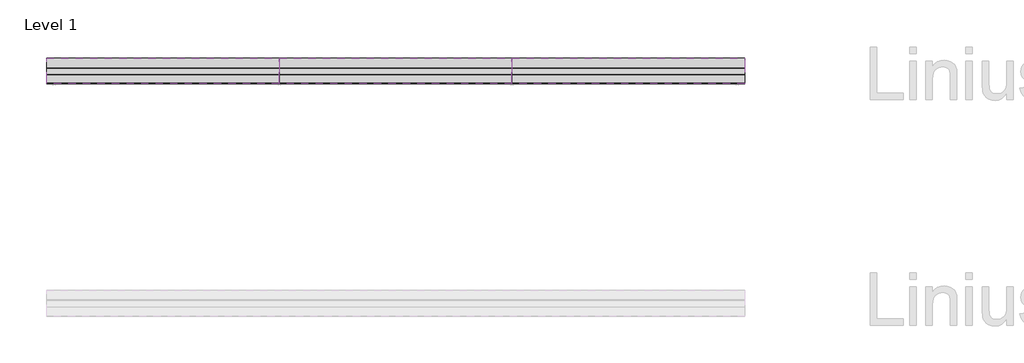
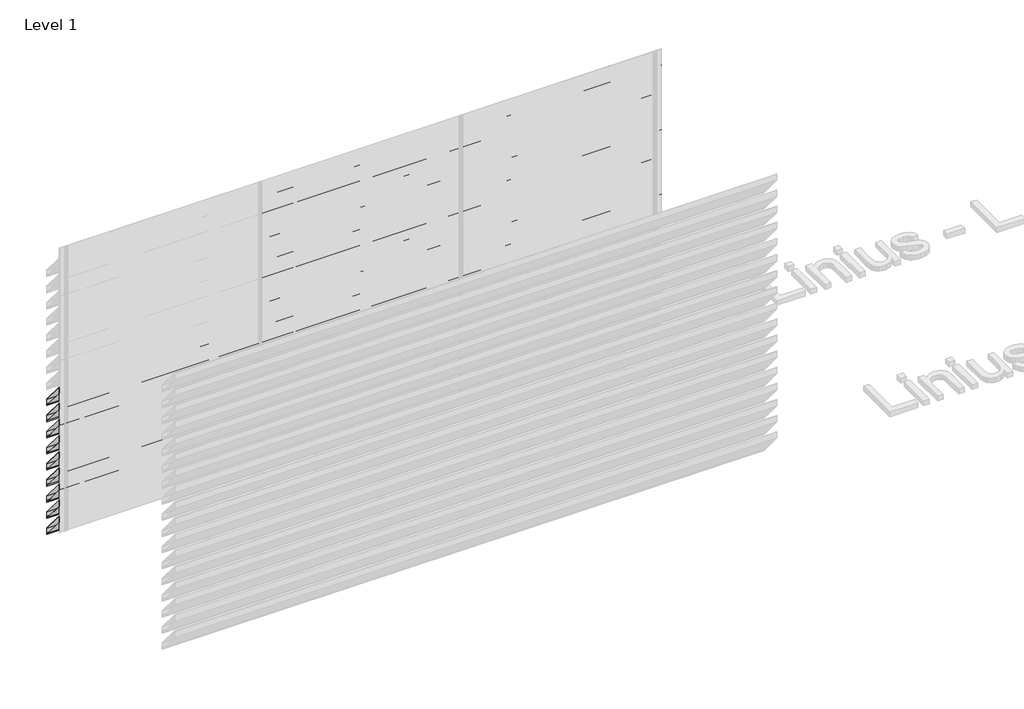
# One storey, part 104 of 121: 43 proxies.
"""IFC4 building model written with IfcOpenShell, lengths in millimetres."""

import ifcopenshell
import ifcopenshell.guid

model = None  # the IFC model being written
_history = None  # IfcOwnerHistory: only IFC2X3 demands one
_inside = {}  # id of a spatial element -> (the spatial element, [elements in it])
_under = {}  # id of a project, library or spatial element -> (it, [spatial elements below it])
_declared = {}  # id of a project -> (the project, [libraries it declares])
_typed = {}  # id of a type object -> (the type object, [elements of that type])
_made_of = {}  # id of a material, layer set ... -> (it, [elements and type objects made of it])


def new_model(schema):
    """Start an empty IFC model of exactly this schema.

    Asked for "IFC4X3", IfcOpenShell would pick the latest addendum, in which some entities
    have other attributes; the version numbers below select the first issue.
    IFC2X3 requires an IfcOwnerHistory on every rooted entity: one is made here for all.
    """
    global model, _history
    if schema == "IFC4X3":
        model = ifcopenshell.file(schema_version=(4, 3, 0, 0))
    else:
        model = ifcopenshell.file(schema=schema)
    _inside.clear()
    _under.clear()
    _declared.clear()
    _typed.clear()
    _made_of.clear()
    _history = None
    if model.schema == "IFC2X3":
        org = make("IfcOrganization", Name="unknown")
        user = make(
            "IfcPersonAndOrganization",
            ThePerson=make("IfcPerson", FamilyName="unknown"),
            TheOrganization=org,
        )
        app = make(
            "IfcApplication",
            ApplicationDeveloper=org,
            Version="unknown",
            ApplicationFullName="unknown",
            ApplicationIdentifier="unknown",
        )
        _history = make(
            "IfcOwnerHistory",
            OwningUser=user,
            OwningApplication=app,
            ChangeAction="ADDED",
            CreationDate=0,
        )
    return model


def make(cls, **values):
    """One entity of the class cls with the attributes given. An attribute that is None is left unset."""
    return model.create_entity(
        cls, **{name: value for name, value in values.items() if value is not None}
    )


def rooted(cls, **values):
    """An entity with a GlobalId (a new one), such as an element, a storey or a relation."""
    return make(cls, GlobalId=ifcopenshell.guid.new(), OwnerHistory=_history, **values)


def si_unit(unit_type, name, prefix=None):
    """IfcSIUnit, for example si_unit("LENGTHUNIT", "METRE", prefix="MILLI")."""
    return make("IfcSIUnit", UnitType=unit_type, Prefix=prefix, Name=name)


def assignment(units):
    """IfcUnitAssignment: the units of a project."""
    return None if units is None else make("IfcUnitAssignment", Units=units)


def point(xyz):
    """IfcCartesianPoint."""
    return None if xyz is None else make("IfcCartesianPoint", Coordinates=xyz)


def direction(xyz):
    """IfcDirection."""
    return None if xyz is None else make("IfcDirection", DirectionRatios=xyz)


def frame(location, z_axis=None, x_axis=None):
    """IfcAxis2Placement3D, a coordinate frame: its origin and axes. An axis left out is left unset."""
    return make(
        "IfcAxis2Placement3D",
        Location=point(location),
        Axis=direction(z_axis),
        RefDirection=direction(x_axis),
    )


def origin():
    """The frame at (0, 0, 0) with its axes left unset."""
    return frame((0.0, 0.0, 0.0))


def place(relative_to, where):
    """IfcLocalPlacement: puts the frame where relative to a parent placement (None: the world)."""
    return make(
        "IfcLocalPlacement", PlacementRelTo=relative_to, RelativePlacement=where
    )


def context(
    kind, dimensions, precision=None, world=None, true_north=None, identifier=None
):
    """IfcGeometricRepresentationContext, for example the 3D "Model" context."""
    return make(
        "IfcGeometricRepresentationContext",
        ContextIdentifier=identifier,
        ContextType=kind,
        CoordinateSpaceDimension=dimensions,
        Precision=precision,
        WorldCoordinateSystem=world,
        TrueNorth=true_north,
    )


def project(units=None, contexts=None):
    """IfcProject with its units and contexts."""
    return rooted(
        "IfcProject",
        Name="project",
        RepresentationContexts=contexts,
        UnitsInContext=assignment(units),
    )


def spatial(cls, under=None, at=None, **own):
    """A site, building, storey or space (cls), placed at a placement, below another one or the project."""
    s = rooted(cls, ObjectPlacement=at, **own)
    if under is not None:
        _under.setdefault(under.id(), (under, []))[1].append(s)
    return s


def polyline(points):
    """IfcPolyline through the points."""
    return make("IfcPolyline", Points=[point(p) for p in points])


def outline(outer, holes=None, kind="AREA"):
    """IfcArbitraryClosedProfileDef: a profile drawn as a closed curve; with holes, ...WithVoids."""
    if holes is None:
        return make("IfcArbitraryClosedProfileDef", ProfileType=kind, OuterCurve=outer)
    return make(
        "IfcArbitraryProfileDefWithVoids",
        ProfileType=kind,
        OuterCurve=outer,
        InnerCurves=holes,
    )


def extrude(swept, where, along, depth):
    """IfcExtrudedAreaSolid: the profile swept, set in the frame where, extruded along a direction by depth."""
    return make(
        "IfcExtrudedAreaSolid",
        SweptArea=swept,
        Position=where,
        ExtrudedDirection=direction(along),
        Depth=depth,
    )


def shape(context_of_items, identifier, shape_type, items):
    """IfcShapeRepresentation: the items that make up one representation, for example the "Body"."""
    return make(
        "IfcShapeRepresentation",
        ContextOfItems=context_of_items,
        RepresentationIdentifier=identifier,
        RepresentationType=shape_type,
        Items=items,
    )


def made_of(thing, what):
    """Note that an element or type object is made of a material, layer set ...; save() writes the relation."""
    if what is not None:
        _made_of.setdefault(what.id(), (what, []))[1].append(thing)
    return thing


def element(
    cls,
    number,
    at=None,
    inside=None,
    cuts=None,
    type_object=None,
    material=None,
    context=None,
    identifier="Body",
    shape_type=None,
    held_by="IfcProductDefinitionShape",
    body=None,
    shapes=None,
    **own,
):
    """One element of the class cls, such as IfcWall. Its Tag is "e" and its number.

    at: its placement. inside: the storey or other place that contains it. cuts: it is an
    opening in that element (IfcRelVoidsElement). A single representation is given by context,
    identifier, shape_type and body (its items); several are given by shapes. held_by: the class
    of the entity that holds the representations. save() writes the other relations.
    """
    e = rooted(cls, Tag="e%d" % number, ObjectPlacement=at, **own)
    if body is not None:
        shapes = [shape(context, identifier, shape_type, body)]
    if shapes is not None:
        e.Representation = make(held_by, Representations=shapes)
    if inside is not None:
        _inside.setdefault(inside.id(), (inside, []))[1].append(e)
    if cuts is not None:
        rooted(
            "IfcRelVoidsElement", RelatingBuildingElement=cuts, RelatedOpeningElement=e
        )
    if type_object is not None:
        _typed.setdefault(type_object.id(), (type_object, []))[1].append(e)
    return made_of(e, material)


def aggregate(whole, parts):
    """IfcRelAggregates: a whole, such as a stair, and the parts it consists of."""
    return rooted("IfcRelAggregates", RelatingObject=whole, RelatedObjects=parts)


def save(model, path):
    """Write the relations noted so far, then the file.

    IfcRelAggregates (storeys below a building ...), IfcRelContainedInSpatialStructure (elements
    in a storey), IfcRelDefinesByType, IfcRelAssociatesMaterial and IfcRelDeclares: one each for
    every whole, place, type object, material and project.
    """
    for whole, parts in _under.values():
        aggregate(whole, parts)
    for where, things in _inside.values():
        rooted(
            "IfcRelContainedInSpatialStructure",
            RelatedElements=things,
            RelatingStructure=where,
        )
    for kind, things in _typed.values():
        rooted("IfcRelDefinesByType", RelatedObjects=things, RelatingType=kind)
    for what, things in _made_of.values():
        rooted("IfcRelAssociatesMaterial", RelatedObjects=things, RelatingMaterial=what)
    for by, libraries in _declared.values():
        rooted("IfcRelDeclares", RelatingContext=by, RelatedDefinitions=libraries)
    model.write(path)


model = new_model("IFC4")

# Units and contexts
model_context = context("Model", 3, world=origin())
ifc_project = project(units=[si_unit("LENGTHUNIT", "METRE", prefix="MILLI")], contexts=[model_context])

# Site, building, storey
site = spatial("IfcSite", under=ifc_project)
building = spatial("IfcBuilding", under=site)
storey = spatial("IfcBuildingStorey", under=building, Name="Level 1", Elevation=0.0)

# Proxies
placement = place(None, origin())
element("IfcBuildingElementProxy", 1, Name="Wall Sweeps", at=placement, inside=storey, context=model_context, shape_type="SweptSolid", body=[
    extrude(outline(polyline([(74205.0540136, 1271.0), (74205.0540136, 1202.0), (74202.5540136, 1203.1657691), (74202.5540136, 1216.7059843), (74185.8041465, 1236.6676986), (74175.1189071, 1236.6676986), (73983.0540136, 1465.5617253), (73983.0540136, 1530.0), (73987.7272091, 1530.0), (74205.0540136, 1271.0)]), holes=[polyline([(73986.8412246, 1528.1), (73984.9540136, 1528.1), (73984.9540136, 1466.2532688), (74176.0048916, 1238.5676986), (74186.6901311, 1238.5676986), (74203.1540136, 1218.9468074), (74203.1540136, 1270.3084566), (73986.8412246, 1528.1)])]), frame((466.6208097, 0.0, 0.0), z_axis=(1.0, 0.0, 0.0), x_axis=(0.0, 1.0, 0.0)), (0.0, 0.0, 1.0), 2000.0),
])
element("IfcBuildingElementProxy", 2, Name="Wall Sweeps", at=placement, inside=storey, context=model_context, shape_type="SweptSolid", body=[
    extrude(outline(polyline([(74205.0540136, 1101.0), (74205.0540136, 1032.0), (74202.5540136, 1033.1657691), (74202.5540136, 1046.7059843), (74185.8041465, 1066.6676986), (74175.1189071, 1066.6676986), (73983.0540136, 1295.5617253), (73983.0540136, 1360.0), (73987.7272091, 1360.0), (74205.0540136, 1101.0)]), holes=[polyline([(73986.8412246, 1358.1), (73984.9540136, 1358.1), (73984.9540136, 1296.2532688), (74176.0048916, 1068.5676986), (74186.6901311, 1068.5676986), (74203.1540136, 1048.9468074), (74203.1540136, 1100.3084566), (73986.8412246, 1358.1)])]), frame((466.6208097, 0.0, 0.0), z_axis=(1.0, 0.0, 0.0), x_axis=(0.0, 1.0, 0.0)), (0.0, 0.0, 1.0), 2000.0),
])
element("IfcBuildingElementProxy", 3, Name="Wall Sweeps", at=placement, inside=storey, context=model_context, shape_type="SweptSolid", body=[
    extrude(outline(polyline([(74205.0540136, 931.0), (74205.0540136, 862.0), (74202.5540136, 863.1657691), (74202.5540136, 876.7059843), (74185.8041465, 896.6676986), (74175.1189071, 896.6676986), (73983.0540136, 1125.5617253), (73983.0540136, 1190.0), (73987.7272091, 1190.0), (74205.0540136, 931.0)]), holes=[polyline([(73986.8412246, 1188.1), (73984.9540136, 1188.1), (73984.9540136, 1126.2532688), (74176.0048916, 898.5676986), (74186.6901311, 898.5676986), (74203.1540136, 878.9468074), (74203.1540136, 930.3084566), (73986.8412246, 1188.1)])]), frame((466.6208097, 0.0, 0.0), z_axis=(1.0, 0.0, 0.0), x_axis=(0.0, 1.0, 0.0)), (0.0, 0.0, 1.0), 2000.0),
])
element("IfcBuildingElementProxy", 4, Name="Wall Sweeps", at=placement, inside=storey, context=model_context, shape_type="SweptSolid", body=[
    extrude(outline(polyline([(74205.0540136, 761.0), (74205.0540136, 692.0), (74202.5540136, 693.1657691), (74202.5540136, 706.7059843), (74185.8041465, 726.6676986), (74175.1189071, 726.6676986), (73983.0540136, 955.5617253), (73983.0540136, 1020.0), (73987.7272091, 1020.0), (74205.0540136, 761.0)]), holes=[polyline([(73986.8412246, 1018.1), (73984.9540136, 1018.1), (73984.9540136, 956.2532688), (74176.0048916, 728.5676986), (74186.6901311, 728.5676986), (74203.1540136, 708.9468074), (74203.1540136, 760.3084566), (73986.8412246, 1018.1)])]), frame((466.6208097, 0.0, 0.0), z_axis=(1.0, 0.0, 0.0), x_axis=(0.0, 1.0, 0.0)), (0.0, 0.0, 1.0), 2000.0),
])
element("IfcBuildingElementProxy", 5, Name="Wall Sweeps", at=placement, inside=storey, context=model_context, shape_type="SweptSolid", body=[
    extrude(outline(polyline([(74205.0540136, 591.0), (74205.0540136, 522.0), (74202.5540136, 523.1657691), (74202.5540136, 536.7059843), (74185.8041465, 556.6676986), (74175.1189071, 556.6676986), (73983.0540136, 785.5617253), (73983.0540136, 850.0), (73987.7272091, 850.0), (74205.0540136, 591.0)]), holes=[polyline([(73986.8412246, 848.1), (73984.9540136, 848.1), (73984.9540136, 786.2532688), (74176.0048916, 558.5676986), (74186.6901311, 558.5676986), (74203.1540136, 538.9468074), (74203.1540136, 590.3084566), (73986.8412246, 848.1)])]), frame((466.6208097, 0.0, 0.0), z_axis=(1.0, 0.0, 0.0), x_axis=(0.0, 1.0, 0.0)), (0.0, 0.0, 1.0), 2000.0),
])
element("IfcBuildingElementProxy", 6, Name="Wall Sweeps", at=placement, inside=storey, context=model_context, shape_type="SweptSolid", body=[
    extrude(outline(polyline([(74205.0540136, 421.0), (74205.0540136, 352.0), (74202.5540136, 353.1657691), (74202.5540136, 366.7059843), (74185.8041465, 386.6676986), (74175.1189071, 386.6676986), (73983.0540136, 615.5617253), (73983.0540136, 680.0), (73987.7272091, 680.0), (74205.0540136, 421.0)]), holes=[polyline([(73986.8412246, 678.1), (73984.9540136, 678.1), (73984.9540136, 616.2532688), (74176.0048916, 388.5676986), (74186.6901311, 388.5676986), (74203.1540136, 368.9468074), (74203.1540136, 420.3084566), (73986.8412246, 678.1)])]), frame((466.6208097, 0.0, 0.0), z_axis=(1.0, 0.0, 0.0), x_axis=(0.0, 1.0, 0.0)), (0.0, 0.0, 1.0), 2000.0),
])
element("IfcBuildingElementProxy", 7, Name="Wall Sweeps", at=placement, inside=storey, context=model_context, shape_type="SweptSolid", body=[
    extrude(outline(polyline([(74205.0540136, 251.0), (74205.0540136, 182.0), (74202.5540136, 183.1657691), (74202.5540136, 196.7059843), (74185.8041465, 216.6676986), (74175.1189071, 216.6676986), (73983.0540136, 445.5617253), (73983.0540136, 510.0), (73987.7272091, 510.0), (74205.0540136, 251.0)]), holes=[polyline([(73986.8412246, 508.1), (73984.9540136, 508.1), (73984.9540136, 446.2532688), (74176.0048916, 218.5676986), (74186.6901311, 218.5676986), (74203.1540136, 198.9468074), (74203.1540136, 250.3084566), (73986.8412246, 508.1)])]), frame((466.6208097, 0.0, 0.0), z_axis=(1.0, 0.0, 0.0), x_axis=(0.0, 1.0, 0.0)), (0.0, 0.0, 1.0), 2000.0),
])
element("IfcBuildingElementProxy", 8, Name="Wall Sweeps", at=placement, inside=storey, context=model_context, shape_type="SweptSolid", body=[
    extrude(outline(polyline([(74205.0540136, 81.0), (74205.0540136, 12.0), (74202.5540136, 13.1657691), (74202.5540136, 26.7059843), (74185.8041465, 46.6676986), (74175.1189071, 46.6676986), (73983.0540136, 275.5617253), (73983.0540136, 340.0), (73987.7272091, 340.0), (74205.0540136, 81.0)]), holes=[polyline([(73986.8412246, 338.1), (73984.9540136, 338.1), (73984.9540136, 276.2532688), (74176.0048916, 48.5676986), (74186.6901311, 48.5676986), (74203.1540136, 28.9468074), (74203.1540136, 80.3084566), (73986.8412246, 338.1)])]), frame((466.6208097, 0.0, 0.0), z_axis=(1.0, 0.0, 0.0), x_axis=(0.0, 1.0, 0.0)), (0.0, 0.0, 1.0), 2000.0),
])
element("IfcBuildingElementProxy", 9, Name="Wall Sweeps", at=placement, inside=storey, context=model_context, shape_type="SweptSolid", body=[
    extrude(outline(polyline([(74205.0540136, -89.0), (74205.0540136, -158.0), (74202.5540136, -156.8342309), (74202.5540136, -143.2940157), (74185.8041465, -123.3323014), (74175.1189071, -123.3323014), (73983.0540136, 105.5617253), (73983.0540136, 170.0), (73987.7272091, 170.0), (74205.0540136, -89.0)]), holes=[polyline([(73986.8412246, 168.1), (73984.9540136, 168.1), (73984.9540136, 106.2532688), (74176.0048916, -121.4323014), (74186.6901311, -121.4323014), (74203.1540136, -141.0531926), (74203.1540136, -89.6915434), (73986.8412246, 168.1)])]), frame((466.6208097, 0.0, 0.0), z_axis=(1.0, 0.0, 0.0), x_axis=(0.0, 1.0, 0.0)), (0.0, 0.0, 1.0), 2000.0),
])
element("IfcBuildingElementProxy", 10, Name="Wall Sweeps", at=placement, inside=storey, context=model_context, shape_type="SweptSolid", body=[
    extrude(outline(polyline([(74205.0540136, 2631.0), (74205.0540136, 2562.0), (74202.5540136, 2563.1657691), (74202.5540136, 2576.7059843), (74185.8041465, 2596.6676986), (74175.1189071, 2596.6676986), (73983.0540136, 2825.5617253), (73983.0540136, 2890.0), (73987.7272091, 2890.0), (74205.0540136, 2631.0)]), holes=[polyline([(73986.8412246, 2888.1), (73984.9540136, 2888.1), (73984.9540136, 2826.2532688), (74176.0048916, 2598.5676986), (74186.6901311, 2598.5676986), (74203.1540136, 2578.9468074), (74203.1540136, 2630.3084566), (73986.8412246, 2888.1)])]), frame((2466.6208097, 0.0, 0.0), z_axis=(1.0, 0.0, 0.0), x_axis=(0.0, 1.0, 0.0)), (0.0, 0.0, 1.0), 2000.0),
])
element("IfcBuildingElementProxy", 11, Name="Wall Sweeps", at=placement, inside=storey, context=model_context, shape_type="SweptSolid", body=[
    extrude(outline(polyline([(74205.0540136, 2461.0), (74205.0540136, 2392.0), (74202.5540136, 2393.1657691), (74202.5540136, 2406.7059843), (74185.8041465, 2426.6676986), (74175.1189071, 2426.6676986), (73983.0540136, 2655.5617253), (73983.0540136, 2720.0), (73987.7272091, 2720.0), (74205.0540136, 2461.0)]), holes=[polyline([(73986.8412246, 2718.1), (73984.9540136, 2718.1), (73984.9540136, 2656.2532688), (74176.0048916, 2428.5676986), (74186.6901311, 2428.5676986), (74203.1540136, 2408.9468074), (74203.1540136, 2460.3084566), (73986.8412246, 2718.1)])]), frame((2466.6208097, 0.0, 0.0), z_axis=(1.0, 0.0, 0.0), x_axis=(0.0, 1.0, 0.0)), (0.0, 0.0, 1.0), 2000.0),
])
element("IfcBuildingElementProxy", 12, Name="Wall Sweeps", at=placement, inside=storey, context=model_context, shape_type="SweptSolid", body=[
    extrude(outline(polyline([(74205.0540136, 2291.0), (74205.0540136, 2222.0), (74202.5540136, 2223.1657691), (74202.5540136, 2236.7059843), (74185.8041465, 2256.6676986), (74175.1189071, 2256.6676986), (73983.0540136, 2485.5617253), (73983.0540136, 2550.0), (73987.7272091, 2550.0), (74205.0540136, 2291.0)]), holes=[polyline([(73986.8412246, 2548.1), (73984.9540136, 2548.1), (73984.9540136, 2486.2532688), (74176.0048916, 2258.5676986), (74186.6901311, 2258.5676986), (74203.1540136, 2238.9468074), (74203.1540136, 2290.3084566), (73986.8412246, 2548.1)])]), frame((2466.6208097, 0.0, 0.0), z_axis=(1.0, 0.0, 0.0), x_axis=(0.0, 1.0, 0.0)), (0.0, 0.0, 1.0), 2000.0),
])
element("IfcBuildingElementProxy", 13, Name="Wall Sweeps", at=placement, inside=storey, context=model_context, shape_type="SweptSolid", body=[
    extrude(outline(polyline([(74205.0540136, 2121.0), (74205.0540136, 2052.0), (74202.5540136, 2053.1657691), (74202.5540136, 2066.7059843), (74185.8041465, 2086.6676986), (74175.1189071, 2086.6676986), (73983.0540136, 2315.5617253), (73983.0540136, 2380.0), (73987.7272091, 2380.0), (74205.0540136, 2121.0)]), holes=[polyline([(73986.8412246, 2378.1), (73984.9540136, 2378.1), (73984.9540136, 2316.2532688), (74176.0048916, 2088.5676986), (74186.6901311, 2088.5676986), (74203.1540136, 2068.9468074), (74203.1540136, 2120.3084566), (73986.8412246, 2378.1)])]), frame((2466.6208097, 0.0, 0.0), z_axis=(1.0, 0.0, 0.0), x_axis=(0.0, 1.0, 0.0)), (0.0, 0.0, 1.0), 2000.0),
])
element("IfcBuildingElementProxy", 14, Name="Wall Sweeps", at=placement, inside=storey, context=model_context, shape_type="SweptSolid", body=[
    extrude(outline(polyline([(74205.0540136, 1951.0), (74205.0540136, 1882.0), (74202.5540136, 1883.1657691), (74202.5540136, 1896.7059843), (74185.8041465, 1916.6676986), (74175.1189071, 1916.6676986), (73983.0540136, 2145.5617253), (73983.0540136, 2210.0), (73987.7272091, 2210.0), (74205.0540136, 1951.0)]), holes=[polyline([(73986.8412246, 2208.1), (73984.9540136, 2208.1), (73984.9540136, 2146.2532688), (74176.0048916, 1918.5676986), (74186.6901311, 1918.5676986), (74203.1540136, 1898.9468074), (74203.1540136, 1950.3084566), (73986.8412246, 2208.1)])]), frame((2466.6208097, 0.0, 0.0), z_axis=(1.0, 0.0, 0.0), x_axis=(0.0, 1.0, 0.0)), (0.0, 0.0, 1.0), 2000.0),
])
element("IfcBuildingElementProxy", 15, Name="Wall Sweeps", at=placement, inside=storey, context=model_context, shape_type="SweptSolid", body=[
    extrude(outline(polyline([(74205.0540136, 1781.0), (74205.0540136, 1712.0), (74202.5540136, 1713.1657691), (74202.5540136, 1726.7059843), (74185.8041465, 1746.6676986), (74175.1189071, 1746.6676986), (73983.0540136, 1975.5617253), (73983.0540136, 2040.0), (73987.7272091, 2040.0), (74205.0540136, 1781.0)]), holes=[polyline([(73986.8412246, 2038.1), (73984.9540136, 2038.1), (73984.9540136, 1976.2532688), (74176.0048916, 1748.5676986), (74186.6901311, 1748.5676986), (74203.1540136, 1728.9468074), (74203.1540136, 1780.3084566), (73986.8412246, 2038.1)])]), frame((2466.6208097, 0.0, 0.0), z_axis=(1.0, 0.0, 0.0), x_axis=(0.0, 1.0, 0.0)), (0.0, 0.0, 1.0), 2000.0),
])
element("IfcBuildingElementProxy", 16, Name="Wall Sweeps", at=placement, inside=storey, context=model_context, shape_type="SweptSolid", body=[
    extrude(outline(polyline([(74205.0540136, 1611.0), (74205.0540136, 1542.0), (74202.5540136, 1543.1657691), (74202.5540136, 1556.7059843), (74185.8041465, 1576.6676986), (74175.1189071, 1576.6676986), (73983.0540136, 1805.5617253), (73983.0540136, 1870.0), (73987.7272091, 1870.0), (74205.0540136, 1611.0)]), holes=[polyline([(73986.8412246, 1868.1), (73984.9540136, 1868.1), (73984.9540136, 1806.2532688), (74176.0048916, 1578.5676986), (74186.6901311, 1578.5676986), (74203.1540136, 1558.9468074), (74203.1540136, 1610.3084566), (73986.8412246, 1868.1)])]), frame((2466.6208097, 0.0, 0.0), z_axis=(1.0, 0.0, 0.0), x_axis=(0.0, 1.0, 0.0)), (0.0, 0.0, 1.0), 2000.0),
])
element("IfcBuildingElementProxy", 17, Name="Wall Sweeps", at=placement, inside=storey, context=model_context, shape_type="SweptSolid", body=[
    extrude(outline(polyline([(74205.0540136, 1441.0), (74205.0540136, 1372.0), (74202.5540136, 1373.1657691), (74202.5540136, 1386.7059843), (74185.8041465, 1406.6676986), (74175.1189071, 1406.6676986), (73983.0540136, 1635.5617253), (73983.0540136, 1700.0), (73987.7272091, 1700.0), (74205.0540136, 1441.0)]), holes=[polyline([(73986.8412246, 1698.1), (73984.9540136, 1698.1), (73984.9540136, 1636.2532688), (74176.0048916, 1408.5676986), (74186.6901311, 1408.5676986), (74203.1540136, 1388.9468074), (74203.1540136, 1440.3084566), (73986.8412246, 1698.1)])]), frame((2466.6208097, 0.0, 0.0), z_axis=(1.0, 0.0, 0.0), x_axis=(0.0, 1.0, 0.0)), (0.0, 0.0, 1.0), 2000.0),
])
element("IfcBuildingElementProxy", 18, Name="Wall Sweeps", at=placement, inside=storey, context=model_context, shape_type="SweptSolid", body=[
    extrude(outline(polyline([(74205.0540136, 1271.0), (74205.0540136, 1202.0), (74202.5540136, 1203.1657691), (74202.5540136, 1216.7059843), (74185.8041465, 1236.6676986), (74175.1189071, 1236.6676986), (73983.0540136, 1465.5617253), (73983.0540136, 1530.0), (73987.7272091, 1530.0), (74205.0540136, 1271.0)]), holes=[polyline([(73986.8412246, 1528.1), (73984.9540136, 1528.1), (73984.9540136, 1466.2532688), (74176.0048916, 1238.5676986), (74186.6901311, 1238.5676986), (74203.1540136, 1218.9468074), (74203.1540136, 1270.3084566), (73986.8412246, 1528.1)])]), frame((2466.6208097, 0.0, 0.0), z_axis=(1.0, 0.0, 0.0), x_axis=(0.0, 1.0, 0.0)), (0.0, 0.0, 1.0), 2000.0),
])
element("IfcBuildingElementProxy", 19, Name="Wall Sweeps", at=placement, inside=storey, context=model_context, shape_type="SweptSolid", body=[
    extrude(outline(polyline([(74205.0540136, 1101.0), (74205.0540136, 1032.0), (74202.5540136, 1033.1657691), (74202.5540136, 1046.7059843), (74185.8041465, 1066.6676986), (74175.1189071, 1066.6676986), (73983.0540136, 1295.5617253), (73983.0540136, 1360.0), (73987.7272091, 1360.0), (74205.0540136, 1101.0)]), holes=[polyline([(73986.8412246, 1358.1), (73984.9540136, 1358.1), (73984.9540136, 1296.2532688), (74176.0048916, 1068.5676986), (74186.6901311, 1068.5676986), (74203.1540136, 1048.9468074), (74203.1540136, 1100.3084566), (73986.8412246, 1358.1)])]), frame((2466.6208097, 0.0, 0.0), z_axis=(1.0, 0.0, 0.0), x_axis=(0.0, 1.0, 0.0)), (0.0, 0.0, 1.0), 2000.0),
])
element("IfcBuildingElementProxy", 20, Name="Wall Sweeps", at=placement, inside=storey, context=model_context, shape_type="SweptSolid", body=[
    extrude(outline(polyline([(74205.0540136, 931.0), (74205.0540136, 862.0), (74202.5540136, 863.1657691), (74202.5540136, 876.7059843), (74185.8041465, 896.6676986), (74175.1189071, 896.6676986), (73983.0540136, 1125.5617253), (73983.0540136, 1190.0), (73987.7272091, 1190.0), (74205.0540136, 931.0)]), holes=[polyline([(73986.8412246, 1188.1), (73984.9540136, 1188.1), (73984.9540136, 1126.2532688), (74176.0048916, 898.5676986), (74186.6901311, 898.5676986), (74203.1540136, 878.9468074), (74203.1540136, 930.3084566), (73986.8412246, 1188.1)])]), frame((2466.6208097, 0.0, 0.0), z_axis=(1.0, 0.0, 0.0), x_axis=(0.0, 1.0, 0.0)), (0.0, 0.0, 1.0), 2000.0),
])
element("IfcBuildingElementProxy", 21, Name="Wall Sweeps", at=placement, inside=storey, context=model_context, shape_type="SweptSolid", body=[
    extrude(outline(polyline([(74205.0540136, 761.0), (74205.0540136, 692.0), (74202.5540136, 693.1657691), (74202.5540136, 706.7059843), (74185.8041465, 726.6676986), (74175.1189071, 726.6676986), (73983.0540136, 955.5617253), (73983.0540136, 1020.0), (73987.7272091, 1020.0), (74205.0540136, 761.0)]), holes=[polyline([(73986.8412246, 1018.1), (73984.9540136, 1018.1), (73984.9540136, 956.2532688), (74176.0048916, 728.5676986), (74186.6901311, 728.5676986), (74203.1540136, 708.9468074), (74203.1540136, 760.3084566), (73986.8412246, 1018.1)])]), frame((2466.6208097, 0.0, 0.0), z_axis=(1.0, 0.0, 0.0), x_axis=(0.0, 1.0, 0.0)), (0.0, 0.0, 1.0), 2000.0),
])
element("IfcBuildingElementProxy", 22, Name="Wall Sweeps", at=placement, inside=storey, context=model_context, shape_type="SweptSolid", body=[
    extrude(outline(polyline([(74205.0540136, 591.0), (74205.0540136, 522.0), (74202.5540136, 523.1657691), (74202.5540136, 536.7059843), (74185.8041465, 556.6676986), (74175.1189071, 556.6676986), (73983.0540136, 785.5617253), (73983.0540136, 850.0), (73987.7272091, 850.0), (74205.0540136, 591.0)]), holes=[polyline([(73986.8412246, 848.1), (73984.9540136, 848.1), (73984.9540136, 786.2532688), (74176.0048916, 558.5676986), (74186.6901311, 558.5676986), (74203.1540136, 538.9468074), (74203.1540136, 590.3084566), (73986.8412246, 848.1)])]), frame((2466.6208097, 0.0, 0.0), z_axis=(1.0, 0.0, 0.0), x_axis=(0.0, 1.0, 0.0)), (0.0, 0.0, 1.0), 2000.0),
])
element("IfcBuildingElementProxy", 23, Name="Wall Sweeps", at=placement, inside=storey, context=model_context, shape_type="SweptSolid", body=[
    extrude(outline(polyline([(74205.0540136, 421.0), (74205.0540136, 352.0), (74202.5540136, 353.1657691), (74202.5540136, 366.7059843), (74185.8041465, 386.6676986), (74175.1189071, 386.6676986), (73983.0540136, 615.5617253), (73983.0540136, 680.0), (73987.7272091, 680.0), (74205.0540136, 421.0)]), holes=[polyline([(73986.8412246, 678.1), (73984.9540136, 678.1), (73984.9540136, 616.2532688), (74176.0048916, 388.5676986), (74186.6901311, 388.5676986), (74203.1540136, 368.9468074), (74203.1540136, 420.3084566), (73986.8412246, 678.1)])]), frame((2466.6208097, 0.0, 0.0), z_axis=(1.0, 0.0, 0.0), x_axis=(0.0, 1.0, 0.0)), (0.0, 0.0, 1.0), 2000.0),
])
element("IfcBuildingElementProxy", 24, Name="Wall Sweeps", at=placement, inside=storey, context=model_context, shape_type="SweptSolid", body=[
    extrude(outline(polyline([(74205.0540136, 251.0), (74205.0540136, 182.0), (74202.5540136, 183.1657691), (74202.5540136, 196.7059843), (74185.8041465, 216.6676986), (74175.1189071, 216.6676986), (73983.0540136, 445.5617253), (73983.0540136, 510.0), (73987.7272091, 510.0), (74205.0540136, 251.0)]), holes=[polyline([(73986.8412246, 508.1), (73984.9540136, 508.1), (73984.9540136, 446.2532688), (74176.0048916, 218.5676986), (74186.6901311, 218.5676986), (74203.1540136, 198.9468074), (74203.1540136, 250.3084566), (73986.8412246, 508.1)])]), frame((2466.6208097, 0.0, 0.0), z_axis=(1.0, 0.0, 0.0), x_axis=(0.0, 1.0, 0.0)), (0.0, 0.0, 1.0), 2000.0),
])
element("IfcBuildingElementProxy", 25, Name="Wall Sweeps", at=placement, inside=storey, context=model_context, shape_type="SweptSolid", body=[
    extrude(outline(polyline([(74205.0540136, 81.0), (74205.0540136, 12.0), (74202.5540136, 13.1657691), (74202.5540136, 26.7059843), (74185.8041465, 46.6676986), (74175.1189071, 46.6676986), (73983.0540136, 275.5617253), (73983.0540136, 340.0), (73987.7272091, 340.0), (74205.0540136, 81.0)]), holes=[polyline([(73986.8412246, 338.1), (73984.9540136, 338.1), (73984.9540136, 276.2532688), (74176.0048916, 48.5676986), (74186.6901311, 48.5676986), (74203.1540136, 28.9468074), (74203.1540136, 80.3084566), (73986.8412246, 338.1)])]), frame((2466.6208097, 0.0, 0.0), z_axis=(1.0, 0.0, 0.0), x_axis=(0.0, 1.0, 0.0)), (0.0, 0.0, 1.0), 2000.0),
])
element("IfcBuildingElementProxy", 26, Name="Wall Sweeps", at=placement, inside=storey, context=model_context, shape_type="SweptSolid", body=[
    extrude(outline(polyline([(74205.0540136, -89.0), (74205.0540136, -158.0), (74202.5540136, -156.8342309), (74202.5540136, -143.2940157), (74185.8041465, -123.3323014), (74175.1189071, -123.3323014), (73983.0540136, 105.5617253), (73983.0540136, 170.0), (73987.7272091, 170.0), (74205.0540136, -89.0)]), holes=[polyline([(73986.8412246, 168.1), (73984.9540136, 168.1), (73984.9540136, 106.2532688), (74176.0048916, -121.4323014), (74186.6901311, -121.4323014), (74203.1540136, -141.0531926), (74203.1540136, -89.6915434), (73986.8412246, 168.1)])]), frame((2466.6208097, 0.0, 0.0), z_axis=(1.0, 0.0, 0.0), x_axis=(0.0, 1.0, 0.0)), (0.0, 0.0, 1.0), 2000.0),
])
element("IfcBuildingElementProxy", 27, Name="Wall Sweeps", at=placement, inside=storey, context=model_context, shape_type="SweptSolid", body=[
    extrude(outline(polyline([(74205.0540136, 2631.0), (74205.0540136, 2562.0), (74202.5540136, 2563.1657691), (74202.5540136, 2576.7059843), (74185.8041465, 2596.6676986), (74175.1189071, 2596.6676986), (73983.0540136, 2825.5617253), (73983.0540136, 2890.0), (73987.7272091, 2890.0), (74205.0540136, 2631.0)]), holes=[polyline([(73986.8412246, 2888.1), (73984.9540136, 2888.1), (73984.9540136, 2826.2532688), (74176.0048916, 2598.5676986), (74186.6901311, 2598.5676986), (74203.1540136, 2578.9468074), (74203.1540136, 2630.3084566), (73986.8412246, 2888.1)])]), frame((4466.6208097, 0.0, 0.0), z_axis=(1.0, 0.0, 0.0), x_axis=(0.0, 1.0, 0.0)), (0.0, 0.0, 1.0), 2000.0),
])
element("IfcBuildingElementProxy", 28, Name="Wall Sweeps", at=placement, inside=storey, context=model_context, shape_type="SweptSolid", body=[
    extrude(outline(polyline([(74205.0540136, 2461.0), (74205.0540136, 2392.0), (74202.5540136, 2393.1657691), (74202.5540136, 2406.7059843), (74185.8041465, 2426.6676986), (74175.1189071, 2426.6676986), (73983.0540136, 2655.5617253), (73983.0540136, 2720.0), (73987.7272091, 2720.0), (74205.0540136, 2461.0)]), holes=[polyline([(73986.8412246, 2718.1), (73984.9540136, 2718.1), (73984.9540136, 2656.2532688), (74176.0048916, 2428.5676986), (74186.6901311, 2428.5676986), (74203.1540136, 2408.9468074), (74203.1540136, 2460.3084566), (73986.8412246, 2718.1)])]), frame((4466.6208097, 0.0, 0.0), z_axis=(1.0, 0.0, 0.0), x_axis=(0.0, 1.0, 0.0)), (0.0, 0.0, 1.0), 2000.0),
])
element("IfcBuildingElementProxy", 29, Name="Wall Sweeps", at=placement, inside=storey, context=model_context, shape_type="SweptSolid", body=[
    extrude(outline(polyline([(74205.0540136, 2291.0), (74205.0540136, 2222.0), (74202.5540136, 2223.1657691), (74202.5540136, 2236.7059843), (74185.8041465, 2256.6676986), (74175.1189071, 2256.6676986), (73983.0540136, 2485.5617253), (73983.0540136, 2550.0), (73987.7272091, 2550.0), (74205.0540136, 2291.0)]), holes=[polyline([(73986.8412246, 2548.1), (73984.9540136, 2548.1), (73984.9540136, 2486.2532688), (74176.0048916, 2258.5676986), (74186.6901311, 2258.5676986), (74203.1540136, 2238.9468074), (74203.1540136, 2290.3084566), (73986.8412246, 2548.1)])]), frame((4466.6208097, 0.0, 0.0), z_axis=(1.0, 0.0, 0.0), x_axis=(0.0, 1.0, 0.0)), (0.0, 0.0, 1.0), 2000.0),
])
element("IfcBuildingElementProxy", 30, Name="Wall Sweeps", at=placement, inside=storey, context=model_context, shape_type="SweptSolid", body=[
    extrude(outline(polyline([(74205.0540136, 2121.0), (74205.0540136, 2052.0), (74202.5540136, 2053.1657691), (74202.5540136, 2066.7059843), (74185.8041465, 2086.6676986), (74175.1189071, 2086.6676986), (73983.0540136, 2315.5617253), (73983.0540136, 2380.0), (73987.7272091, 2380.0), (74205.0540136, 2121.0)]), holes=[polyline([(73986.8412246, 2378.1), (73984.9540136, 2378.1), (73984.9540136, 2316.2532688), (74176.0048916, 2088.5676986), (74186.6901311, 2088.5676986), (74203.1540136, 2068.9468074), (74203.1540136, 2120.3084566), (73986.8412246, 2378.1)])]), frame((4466.6208097, 0.0, 0.0), z_axis=(1.0, 0.0, 0.0), x_axis=(0.0, 1.0, 0.0)), (0.0, 0.0, 1.0), 2000.0),
])
element("IfcBuildingElementProxy", 31, Name="Wall Sweeps", at=placement, inside=storey, context=model_context, shape_type="SweptSolid", body=[
    extrude(outline(polyline([(74205.0540136, 1951.0), (74205.0540136, 1882.0), (74202.5540136, 1883.1657691), (74202.5540136, 1896.7059843), (74185.8041465, 1916.6676986), (74175.1189071, 1916.6676986), (73983.0540136, 2145.5617253), (73983.0540136, 2210.0), (73987.7272091, 2210.0), (74205.0540136, 1951.0)]), holes=[polyline([(73986.8412246, 2208.1), (73984.9540136, 2208.1), (73984.9540136, 2146.2532688), (74176.0048916, 1918.5676986), (74186.6901311, 1918.5676986), (74203.1540136, 1898.9468074), (74203.1540136, 1950.3084566), (73986.8412246, 2208.1)])]), frame((4466.6208097, 0.0, 0.0), z_axis=(1.0, 0.0, 0.0), x_axis=(0.0, 1.0, 0.0)), (0.0, 0.0, 1.0), 2000.0),
])
element("IfcBuildingElementProxy", 32, Name="Wall Sweeps", at=placement, inside=storey, context=model_context, shape_type="SweptSolid", body=[
    extrude(outline(polyline([(74205.0540136, 1781.0), (74205.0540136, 1712.0), (74202.5540136, 1713.1657691), (74202.5540136, 1726.7059843), (74185.8041465, 1746.6676986), (74175.1189071, 1746.6676986), (73983.0540136, 1975.5617253), (73983.0540136, 2040.0), (73987.7272091, 2040.0), (74205.0540136, 1781.0)]), holes=[polyline([(73986.8412246, 2038.1), (73984.9540136, 2038.1), (73984.9540136, 1976.2532688), (74176.0048916, 1748.5676986), (74186.6901311, 1748.5676986), (74203.1540136, 1728.9468074), (74203.1540136, 1780.3084566), (73986.8412246, 2038.1)])]), frame((4466.6208097, 0.0, 0.0), z_axis=(1.0, 0.0, 0.0), x_axis=(0.0, 1.0, 0.0)), (0.0, 0.0, 1.0), 2000.0),
])
element("IfcBuildingElementProxy", 33, Name="Wall Sweeps", at=placement, inside=storey, context=model_context, shape_type="SweptSolid", body=[
    extrude(outline(polyline([(74205.0540136, 1611.0), (74205.0540136, 1542.0), (74202.5540136, 1543.1657691), (74202.5540136, 1556.7059843), (74185.8041465, 1576.6676986), (74175.1189071, 1576.6676986), (73983.0540136, 1805.5617253), (73983.0540136, 1870.0), (73987.7272091, 1870.0), (74205.0540136, 1611.0)]), holes=[polyline([(73986.8412246, 1868.1), (73984.9540136, 1868.1), (73984.9540136, 1806.2532688), (74176.0048916, 1578.5676986), (74186.6901311, 1578.5676986), (74203.1540136, 1558.9468074), (74203.1540136, 1610.3084566), (73986.8412246, 1868.1)])]), frame((4466.6208097, 0.0, 0.0), z_axis=(1.0, 0.0, 0.0), x_axis=(0.0, 1.0, 0.0)), (0.0, 0.0, 1.0), 2000.0),
])
element("IfcBuildingElementProxy", 34, Name="Wall Sweeps", at=placement, inside=storey, context=model_context, shape_type="SweptSolid", body=[
    extrude(outline(polyline([(74205.0540136, 1441.0), (74205.0540136, 1372.0), (74202.5540136, 1373.1657691), (74202.5540136, 1386.7059843), (74185.8041465, 1406.6676986), (74175.1189071, 1406.6676986), (73983.0540136, 1635.5617253), (73983.0540136, 1700.0), (73987.7272091, 1700.0), (74205.0540136, 1441.0)]), holes=[polyline([(73986.8412246, 1698.1), (73984.9540136, 1698.1), (73984.9540136, 1636.2532688), (74176.0048916, 1408.5676986), (74186.6901311, 1408.5676986), (74203.1540136, 1388.9468074), (74203.1540136, 1440.3084566), (73986.8412246, 1698.1)])]), frame((4466.6208097, 0.0, 0.0), z_axis=(1.0, 0.0, 0.0), x_axis=(0.0, 1.0, 0.0)), (0.0, 0.0, 1.0), 2000.0),
])
element("IfcBuildingElementProxy", 35, Name="Wall Sweeps", at=placement, inside=storey, context=model_context, shape_type="SweptSolid", body=[
    extrude(outline(polyline([(74205.0540136, 1271.0), (74205.0540136, 1202.0), (74202.5540136, 1203.1657691), (74202.5540136, 1216.7059843), (74185.8041465, 1236.6676986), (74175.1189071, 1236.6676986), (73983.0540136, 1465.5617253), (73983.0540136, 1530.0), (73987.7272091, 1530.0), (74205.0540136, 1271.0)]), holes=[polyline([(73986.8412246, 1528.1), (73984.9540136, 1528.1), (73984.9540136, 1466.2532688), (74176.0048916, 1238.5676986), (74186.6901311, 1238.5676986), (74203.1540136, 1218.9468074), (74203.1540136, 1270.3084566), (73986.8412246, 1528.1)])]), frame((4466.6208097, 0.0, 0.0), z_axis=(1.0, 0.0, 0.0), x_axis=(0.0, 1.0, 0.0)), (0.0, 0.0, 1.0), 2000.0),
])
element("IfcBuildingElementProxy", 36, Name="Wall Sweeps", at=placement, inside=storey, context=model_context, shape_type="SweptSolid", body=[
    extrude(outline(polyline([(74205.0540136, 1101.0), (74205.0540136, 1032.0), (74202.5540136, 1033.1657691), (74202.5540136, 1046.7059843), (74185.8041465, 1066.6676986), (74175.1189071, 1066.6676986), (73983.0540136, 1295.5617253), (73983.0540136, 1360.0), (73987.7272091, 1360.0), (74205.0540136, 1101.0)]), holes=[polyline([(73986.8412246, 1358.1), (73984.9540136, 1358.1), (73984.9540136, 1296.2532688), (74176.0048916, 1068.5676986), (74186.6901311, 1068.5676986), (74203.1540136, 1048.9468074), (74203.1540136, 1100.3084566), (73986.8412246, 1358.1)])]), frame((4466.6208097, 0.0, 0.0), z_axis=(1.0, 0.0, 0.0), x_axis=(0.0, 1.0, 0.0)), (0.0, 0.0, 1.0), 2000.0),
])
element("IfcBuildingElementProxy", 37, Name="Wall Sweeps", at=placement, inside=storey, context=model_context, shape_type="SweptSolid", body=[
    extrude(outline(polyline([(74205.0540136, 931.0), (74205.0540136, 862.0), (74202.5540136, 863.1657691), (74202.5540136, 876.7059843), (74185.8041465, 896.6676986), (74175.1189071, 896.6676986), (73983.0540136, 1125.5617253), (73983.0540136, 1190.0), (73987.7272091, 1190.0), (74205.0540136, 931.0)]), holes=[polyline([(73986.8412246, 1188.1), (73984.9540136, 1188.1), (73984.9540136, 1126.2532688), (74176.0048916, 898.5676986), (74186.6901311, 898.5676986), (74203.1540136, 878.9468074), (74203.1540136, 930.3084566), (73986.8412246, 1188.1)])]), frame((4466.6208097, 0.0, 0.0), z_axis=(1.0, 0.0, 0.0), x_axis=(0.0, 1.0, 0.0)), (0.0, 0.0, 1.0), 2000.0),
])
element("IfcBuildingElementProxy", 38, Name="Wall Sweeps", at=placement, inside=storey, context=model_context, shape_type="SweptSolid", body=[
    extrude(outline(polyline([(74205.0540136, 761.0), (74205.0540136, 692.0), (74202.5540136, 693.1657691), (74202.5540136, 706.7059843), (74185.8041465, 726.6676986), (74175.1189071, 726.6676986), (73983.0540136, 955.5617253), (73983.0540136, 1020.0), (73987.7272091, 1020.0), (74205.0540136, 761.0)]), holes=[polyline([(73986.8412246, 1018.1), (73984.9540136, 1018.1), (73984.9540136, 956.2532688), (74176.0048916, 728.5676986), (74186.6901311, 728.5676986), (74203.1540136, 708.9468074), (74203.1540136, 760.3084566), (73986.8412246, 1018.1)])]), frame((4466.6208097, 0.0, 0.0), z_axis=(1.0, 0.0, 0.0), x_axis=(0.0, 1.0, 0.0)), (0.0, 0.0, 1.0), 2000.0),
])
element("IfcBuildingElementProxy", 39, Name="Wall Sweeps", at=placement, inside=storey, context=model_context, shape_type="SweptSolid", body=[
    extrude(outline(polyline([(74205.0540136, 591.0), (74205.0540136, 522.0), (74202.5540136, 523.1657691), (74202.5540136, 536.7059843), (74185.8041465, 556.6676986), (74175.1189071, 556.6676986), (73983.0540136, 785.5617253), (73983.0540136, 850.0), (73987.7272091, 850.0), (74205.0540136, 591.0)]), holes=[polyline([(73986.8412246, 848.1), (73984.9540136, 848.1), (73984.9540136, 786.2532688), (74176.0048916, 558.5676986), (74186.6901311, 558.5676986), (74203.1540136, 538.9468074), (74203.1540136, 590.3084566), (73986.8412246, 848.1)])]), frame((4466.6208097, 0.0, 0.0), z_axis=(1.0, 0.0, 0.0), x_axis=(0.0, 1.0, 0.0)), (0.0, 0.0, 1.0), 2000.0),
])
element("IfcBuildingElementProxy", 40, Name="Wall Sweeps", at=placement, inside=storey, context=model_context, shape_type="SweptSolid", body=[
    extrude(outline(polyline([(74205.0540136, 421.0), (74205.0540136, 352.0), (74202.5540136, 353.1657691), (74202.5540136, 366.7059843), (74185.8041465, 386.6676986), (74175.1189071, 386.6676986), (73983.0540136, 615.5617253), (73983.0540136, 680.0), (73987.7272091, 680.0), (74205.0540136, 421.0)]), holes=[polyline([(73986.8412246, 678.1), (73984.9540136, 678.1), (73984.9540136, 616.2532688), (74176.0048916, 388.5676986), (74186.6901311, 388.5676986), (74203.1540136, 368.9468074), (74203.1540136, 420.3084566), (73986.8412246, 678.1)])]), frame((4466.6208097, 0.0, 0.0), z_axis=(1.0, 0.0, 0.0), x_axis=(0.0, 1.0, 0.0)), (0.0, 0.0, 1.0), 2000.0),
])
element("IfcBuildingElementProxy", 41, Name="Wall Sweeps", at=placement, inside=storey, context=model_context, shape_type="SweptSolid", body=[
    extrude(outline(polyline([(74205.0540136, 251.0), (74205.0540136, 182.0), (74202.5540136, 183.1657691), (74202.5540136, 196.7059843), (74185.8041465, 216.6676986), (74175.1189071, 216.6676986), (73983.0540136, 445.5617253), (73983.0540136, 510.0), (73987.7272091, 510.0), (74205.0540136, 251.0)]), holes=[polyline([(73986.8412246, 508.1), (73984.9540136, 508.1), (73984.9540136, 446.2532688), (74176.0048916, 218.5676986), (74186.6901311, 218.5676986), (74203.1540136, 198.9468074), (74203.1540136, 250.3084566), (73986.8412246, 508.1)])]), frame((4466.6208097, 0.0, 0.0), z_axis=(1.0, 0.0, 0.0), x_axis=(0.0, 1.0, 0.0)), (0.0, 0.0, 1.0), 2000.0),
])
element("IfcBuildingElementProxy", 42, Name="Wall Sweeps", at=placement, inside=storey, context=model_context, shape_type="SweptSolid", body=[
    extrude(outline(polyline([(74205.0540136, 81.0), (74205.0540136, 12.0), (74202.5540136, 13.1657691), (74202.5540136, 26.7059843), (74185.8041465, 46.6676986), (74175.1189071, 46.6676986), (73983.0540136, 275.5617253), (73983.0540136, 340.0), (73987.7272091, 340.0), (74205.0540136, 81.0)]), holes=[polyline([(73986.8412246, 338.1), (73984.9540136, 338.1), (73984.9540136, 276.2532688), (74176.0048916, 48.5676986), (74186.6901311, 48.5676986), (74203.1540136, 28.9468074), (74203.1540136, 80.3084566), (73986.8412246, 338.1)])]), frame((4466.6208097, 0.0, 0.0), z_axis=(1.0, 0.0, 0.0), x_axis=(0.0, 1.0, 0.0)), (0.0, 0.0, 1.0), 2000.0),
])
element("IfcBuildingElementProxy", 43, Name="Wall Sweeps", at=placement, inside=storey, context=model_context, shape_type="SweptSolid", body=[
    extrude(outline(polyline([(74205.0540136, -89.0), (74205.0540136, -158.0), (74202.5540136, -156.8342309), (74202.5540136, -143.2940157), (74185.8041465, -123.3323014), (74175.1189071, -123.3323014), (73983.0540136, 105.5617253), (73983.0540136, 170.0), (73987.7272091, 170.0), (74205.0540136, -89.0)]), holes=[polyline([(73986.8412246, 168.1), (73984.9540136, 168.1), (73984.9540136, 106.2532688), (74176.0048916, -121.4323014), (74186.6901311, -121.4323014), (74203.1540136, -141.0531926), (74203.1540136, -89.6915434), (73986.8412246, 168.1)])]), frame((4466.6208097, 0.0, 0.0), z_axis=(1.0, 0.0, 0.0), x_axis=(0.0, 1.0, 0.0)), (0.0, 0.0, 1.0), 2000.0),
])

save(model, "model.ifc")
